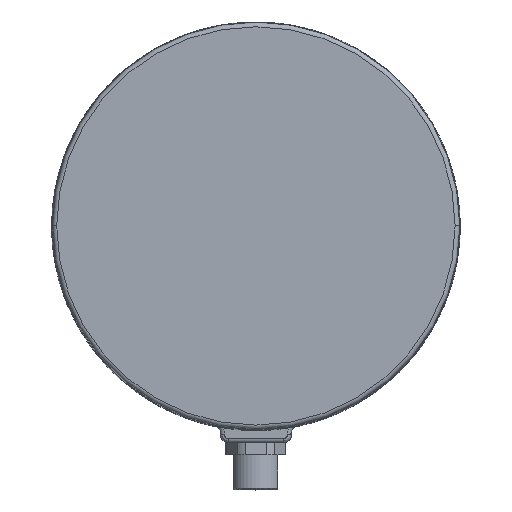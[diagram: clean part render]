
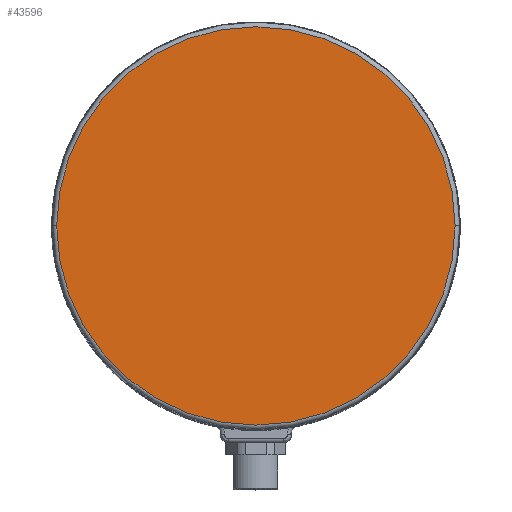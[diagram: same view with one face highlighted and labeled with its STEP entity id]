
A CAD part, top view. The second image highlights one B-rep face of the part: STEP entity #43596.
In plain terms, the highlighted planar face has unit normal (0, 0, 1) as drawn and (0, 0, -1) by its records, which use the part's own axes.
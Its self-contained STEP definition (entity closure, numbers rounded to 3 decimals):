
#43452=CARTESIAN_POINT('',(0.,0.,-5.));
#43453=DIRECTION('',(0.,0.,-1.));
#43454=DIRECTION('',(1.,0.,0.));
#43455=AXIS2_PLACEMENT_3D('',#43452,#43453,#43454);
#43457=CARTESIAN_POINT('',(0.,0.,-5.));
#43458=DIRECTION('',(0.,0.,-1.));
#43459=DIRECTION('',(-1.,0.,0.));
#43460=AXIS2_PLACEMENT_3D('',#43457,#43458,#43459);
#43530=CARTESIAN_POINT('',(49.732,0.,-5.));
#43531=CARTESIAN_POINT('',(-49.732,0.,-5.));
#43532=VERTEX_POINT('',#43530);
#43533=VERTEX_POINT('',#43531);
#43586=CARTESIAN_POINT('',(0.,0.,-5.));
#43587=DIRECTION('',(0.,0.,1.));
#43588=DIRECTION('',(1.,0.,0.));
#43589=AXIS2_PLACEMENT_3D('',#43586,#43587,#43588);
#43590=PLANE('',#43589);
#43592=ORIENTED_EDGE('',*,*,#43591,.F.);
#43593=ORIENTED_EDGE('',*,*,#43576,.F.);
#43594=EDGE_LOOP('',(#43592,#43593));
#43595=FACE_OUTER_BOUND('',#43594,.F.);
#43456=CIRCLE('',#43455,49.732);
#43461=CIRCLE('',#43460,49.732);
#43576=EDGE_CURVE('',#43533,#43532,#43461,.T.);
#43591=EDGE_CURVE('',#43532,#43533,#43456,.T.);
#43596=ADVANCED_FACE('',(#43595),#43590,.F.);
